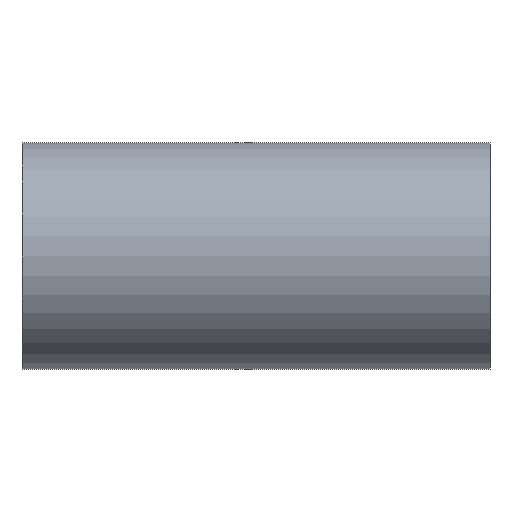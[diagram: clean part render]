
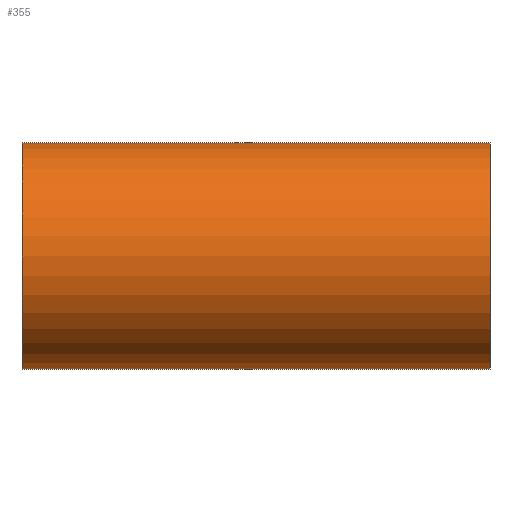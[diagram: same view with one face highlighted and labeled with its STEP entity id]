
A CAD part, front view. The second image highlights one B-rep face of the part: STEP entity #355.
In plain terms, the highlighted cylindrical face has radius 50.8 mm (diameter 101.6 mm), a partial arc.
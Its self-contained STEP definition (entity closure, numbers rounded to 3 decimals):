
#8 = EDGE_CURVE ( 'NONE', #474, #13, #531, .T. ) ;
#13 = VERTEX_POINT ( 'NONE', #408 ) ;
#20 = CARTESIAN_POINT ( 'NONE',  ( -104.8, 0., -50.8 ) ) ;
#46 = VERTEX_POINT ( 'NONE', #534 ) ;
#49 = FACE_OUTER_BOUND ( 'NONE', #414, .T. ) ;
#56 = EDGE_CURVE ( 'NONE', #46, #13, #392, .T. ) ;
#161 = AXIS2_PLACEMENT_3D ( 'NONE', #420, #415, #405 ) ;
#168 = CARTESIAN_POINT ( 'NONE',  ( -104.8, 0., 0. ) ) ;
#170 = CYLINDRICAL_SURFACE ( 'NONE', #505, 50.8 ) ;
#191 = ORIENTED_EDGE ( 'NONE', *, *, #56, .F. ) ;
#227 = DIRECTION ( 'NONE',  ( 1., 0., 0. ) ) ;
#281 = EDGE_CURVE ( 'NONE', #46, #622, #482, .T. ) ;
#341 = DIRECTION ( 'NONE',  ( 1., 0., 0. ) ) ;
#355 = ADVANCED_FACE ( 'NONE', ( #49 ), #170, .T. ) ;
#373 = CARTESIAN_POINT ( 'NONE',  ( 104.8, 0., -50.8 ) ) ;
#392 = LINE ( 'NONE', #540, #631 ) ;
#405 = DIRECTION ( 'NONE',  ( 0., 0., -1. ) ) ;
#408 = CARTESIAN_POINT ( 'NONE',  ( 104.8, 0., 50.8 ) ) ;
#414 = EDGE_LOOP ( 'NONE', ( #191, #632, #513, #453 ) ) ;
#415 = DIRECTION ( 'NONE',  ( -1., 0., 0. ) ) ;
#420 = CARTESIAN_POINT ( 'NONE',  ( 104.8, 0., 0. ) ) ;
#453 = ORIENTED_EDGE ( 'NONE', *, *, #8, .T. ) ;
#468 = CARTESIAN_POINT ( 'NONE',  ( -104.8, 0., 0. ) ) ;
#474 = VERTEX_POINT ( 'NONE', #373 ) ;
#482 = CIRCLE ( 'NONE', #627, 50.8 ) ;
#500 = EDGE_CURVE ( 'NONE', #622, #474, #625, .T. ) ;
#505 = AXIS2_PLACEMENT_3D ( 'NONE', #168, #227, #633 ) ;
#513 = ORIENTED_EDGE ( 'NONE', *, *, #500, .T. ) ;
#531 = CIRCLE ( 'NONE', #161, 50.8 ) ;
#534 = CARTESIAN_POINT ( 'NONE',  ( -104.8, 0., 50.8 ) ) ;
#540 = CARTESIAN_POINT ( 'NONE',  ( -104.8, 0., 50.8 ) ) ;
#550 = DIRECTION ( 'NONE',  ( 0., 0., -1. ) ) ;
#553 = CARTESIAN_POINT ( 'NONE',  ( -104.8, 0., -50.8 ) ) ;
#584 = DIRECTION ( 'NONE',  ( 1., 0., 0. ) ) ;
#596 = DIRECTION ( 'NONE',  ( 1., 0., 0. ) ) ;
#605 = VECTOR ( 'NONE', #341, 1000. ) ;
#622 = VERTEX_POINT ( 'NONE', #20 ) ;
#625 = LINE ( 'NONE', #553, #605 ) ;
#627 = AXIS2_PLACEMENT_3D ( 'NONE', #468, #596, #550 ) ;
#631 = VECTOR ( 'NONE', #584, 1000. ) ;
#632 = ORIENTED_EDGE ( 'NONE', *, *, #281, .T. ) ;
#633 = DIRECTION ( 'NONE',  ( 0., 0., -1. ) ) ;
